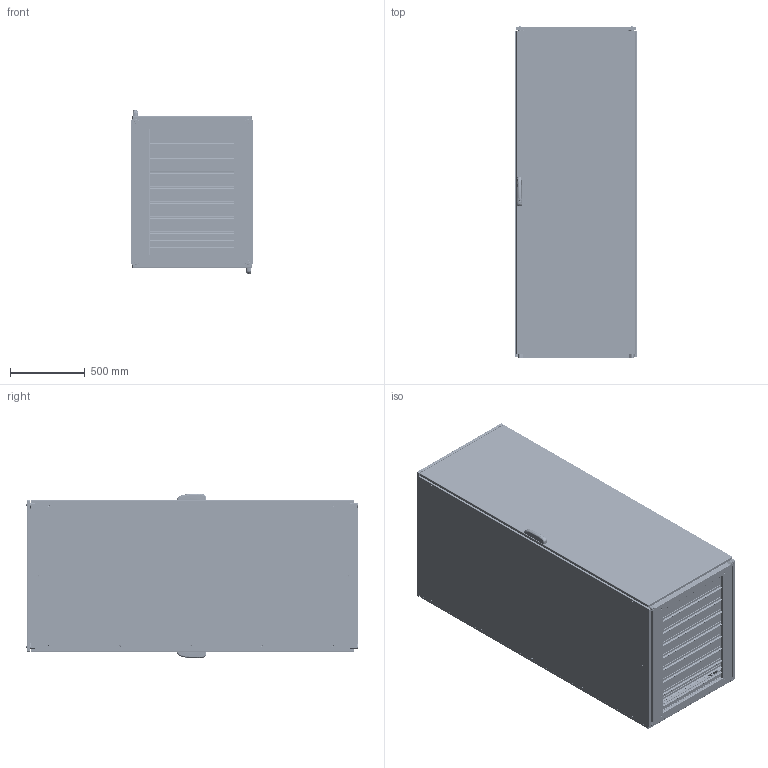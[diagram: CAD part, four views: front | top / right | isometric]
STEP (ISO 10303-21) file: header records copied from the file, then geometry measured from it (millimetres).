
FILE_DESCRIPTION (( 'STEP AP203' ), '1' );
FILE_NAME ('ENUX082210DP.STEP', '2025-05-29T12:05:13', ( '' ), ( '' ), 'SwSTEP 2.0', 'SolidWorks 2022', '' );
FILE_SCHEMA (( 'CONFIG_CONTROL_DESIGN' ));
Length unit declared in the file: millimetre
Products named in the file (13): AR_ENUX_montaggio_porta_singlola_2.0_0800x2200_ANT_DX; AR_ENUX_Porta_singola_2.0_0800x2200_ANT; AR_ENUX_Fianco_1000x2200_DX; AR_ENUX_Struttura_0800x2200x1000; AR_ENUX_Fianco_1000x2200_SX; AR_ENUX_Porta_singola_2.0_0800x2200_POST; AR_ENUX_Tetto_0800x1000; AR_ENUX_Vite_tetto; AR_ENUX_Tegolino_0800x0050; ENUX082210DP; AR_ENUX_Tegolino_0800x0100; AR_ENUX_montaggio_porta_singlola_2.0_0800x2200_POST_DX; AR_ENUX_nuova_maniglia_mesan
Assembly tree (23 placements, depth 3):
  ENUX082210DP
    AR_ENUX_Struttura_0800x2200x1000
    AR_ENUX_montaggio_porta_singlola_2.0_0800x2200_ANT_DX
      AR_ENUX_Porta_singola_2.0_0800x2200_ANT
      AR_ENUX_nuova_maniglia_mesan
    AR_ENUX_montaggio_porta_singlola_2.0_0800x2200_POST_DX
      AR_ENUX_Porta_singola_2.0_0800x2200_POST
      AR_ENUX_nuova_maniglia_mesan
    AR_ENUX_Fianco_1000x2200_SX
    AR_ENUX_Fianco_1000x2200_DX
    AR_ENUX_Tetto_0800x1000
    AR_ENUX_Vite_tetto  x4
    AR_ENUX_Tegolino_0800x0100  x7
    AR_ENUX_Tegolino_0800x0050  x2
Bounding box: 812 x 2215.1 x 1100 mm (x, y, z)
Volume: 20168106.6 mm3; surface area: 27633060.2 mm2
Topology: 21 solids, 21 shells, 11331 faces, 32180 edges, 20812 vertices
Faces by surface type: plane 6229, cylinder 4215, bspline 390, torus 245, cone 188, sphere 64
Entity records: 400525 total; most frequent: CARTESIAN_POINT 102966, ORIENTED_EDGE 61566, DIRECTION 59132, EDGE_CURVE 30783, VECTOR 21218, LINE 21218, VERTEX_POINT 20120, AXIS2_PLACEMENT_3D 18957
